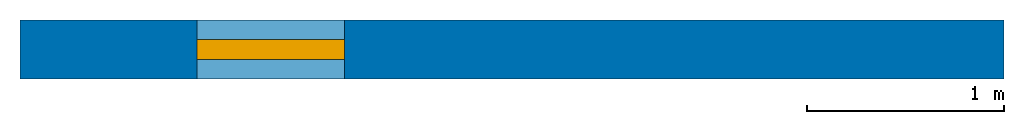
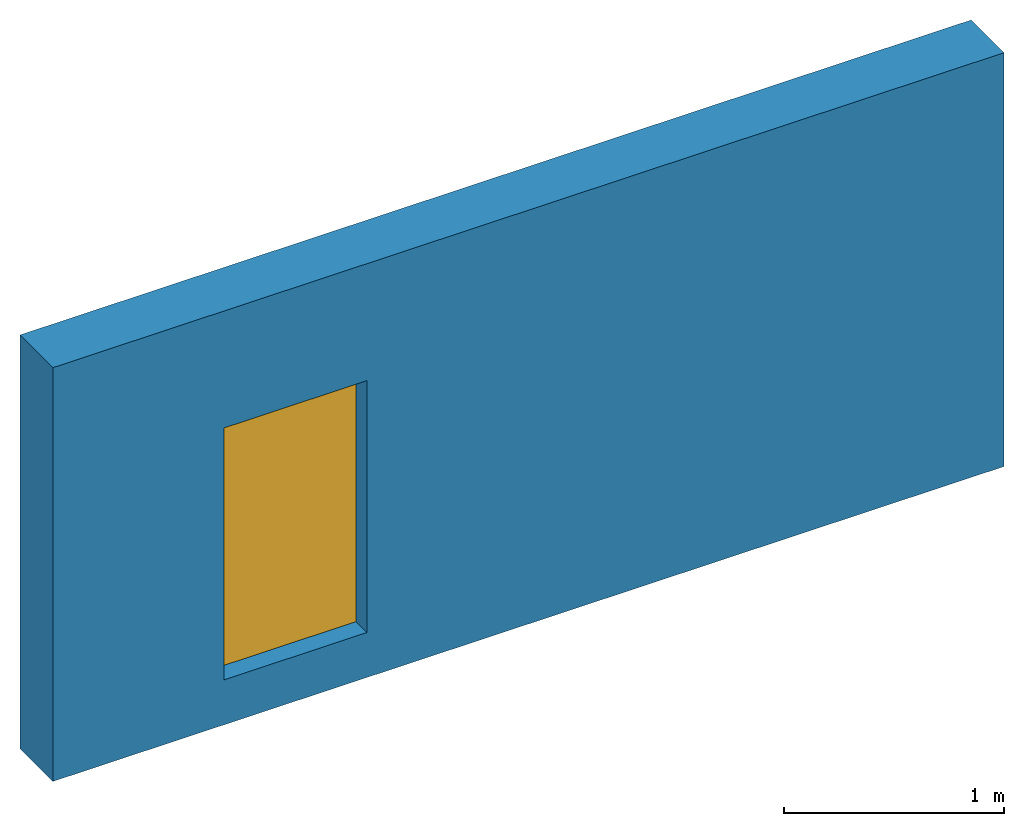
# One storey: 1 wall, 1 window, 1 opening.
"""IFC2X3 building model written with IfcOpenShell, lengths in metres."""

from ifc_helpers import new_model, entity, si_unit, converted_unit, frame, origin, origin_with_axes, place, context, project, spatial, polyline, outline, extrude, material, layer, layer_set, layer_usage, element, fill, save


model = new_model("IFC2X3")

# Units and contexts
model_context = context("Model", 3, precision=1e-05, world=origin())
ifc_project = project(units=[si_unit("LENGTHUNIT", "METRE"), si_unit("AREAUNIT", "SQUARE_METRE"), si_unit("VOLUMEUNIT", "CUBIC_METRE"), converted_unit("PLANEANGLEUNIT", "DEGREE", entity("IfcPlaneAngleMeasure", 0.01745), si_unit("PLANEANGLEUNIT", "RADIAN"), dimensions=[0, 0, 0, 0, 0, 0, 0]), si_unit("SOLIDANGLEUNIT", "STERADIAN"), si_unit("MASSUNIT", "GRAM"), si_unit("TIMEUNIT", "SECOND"), si_unit("THERMODYNAMICTEMPERATUREUNIT", "DEGREE_CELSIUS"), si_unit("LUMINOUSINTENSITYUNIT", "LUMEN")], contexts=[model_context])

# Site, building, storey
site_placement = place(None, origin_with_axes())
site = spatial("IfcSite", under=ifc_project, at=site_placement, Name="Default Site", CompositionType="ELEMENT")
building_placement = place(site_placement, origin_with_axes())
building = spatial("IfcBuilding", under=site, at=building_placement, Name="Default Building", CompositionType="ELEMENT")
storey_placement = place(building_placement, origin_with_axes())
storey = spatial("IfcBuildingStorey", under=building, at=storey_placement, Name="Default Building Storey", CompositionType="ELEMENT", Elevation=0.0)

# Wall, opening, window
ifc_material = material(Name="Name of the material used for the wall")
ifc_layer = layer(ifc_material, 0.3)
ifc_layer_set = layer_set([ifc_layer])
ifc_layer_usage = layer_usage(ifc_layer_set, "AXIS2", "POSITIVE", -0.15)
wall_placement = place(storey_placement, origin_with_axes())
wall = element("IfcWallStandardCase", 1, at=wall_placement, inside=storey, material=ifc_layer_usage, Name="Wall xyz", context=model_context, shape_type="SweptSolid", body=[
    extrude(outline(polyline([(0.0, 0.0), (0.0, 0.3), (5.0, 0.3), (5.0, 0.0), (0.0, 0.0)])), origin_with_axes(), (0.0, 0.0, 1.0), 2.3),
])
opening_placement = place(wall_placement, frame((0.9, 0.0, 0.25), z_axis=(0.0, 0.0, 1.0), x_axis=(1.0, 0.0, 0.0)))
opening = element("IfcOpeningElement", 2, at=opening_placement, cuts=wall, Name="Opening Element xyz", context=model_context, shape_type="SweptSolid", body=[
    extrude(outline(polyline([(0.0, 0.0), (0.0, 0.3), (0.75, 0.3), (0.75, 0.0), (0.0, 0.0)])), origin_with_axes(), (0.0, 0.0, 1.0), 1.4),
])
window_placement = place(opening_placement, frame((0.0, 0.1, 0.0), z_axis=(0.0, 0.0, 1.0), x_axis=(1.0, 0.0, 0.0)))
window = element("IfcWindow", 3, at=window_placement, inside=storey, Name="Window xyz", OverallHeight=1.4, OverallWidth=0.75, context=model_context, shape_type="SweptSolid", body=[
    extrude(outline(polyline([(0.0, 0.0), (0.0, 0.1), (0.75, 0.1), (0.75, 0.0), (0.0, 0.0)])), origin_with_axes(), (0.0, 0.0, 1.0), 1.4),
])
fill(opening, window)

save(model, "model.ifc")
